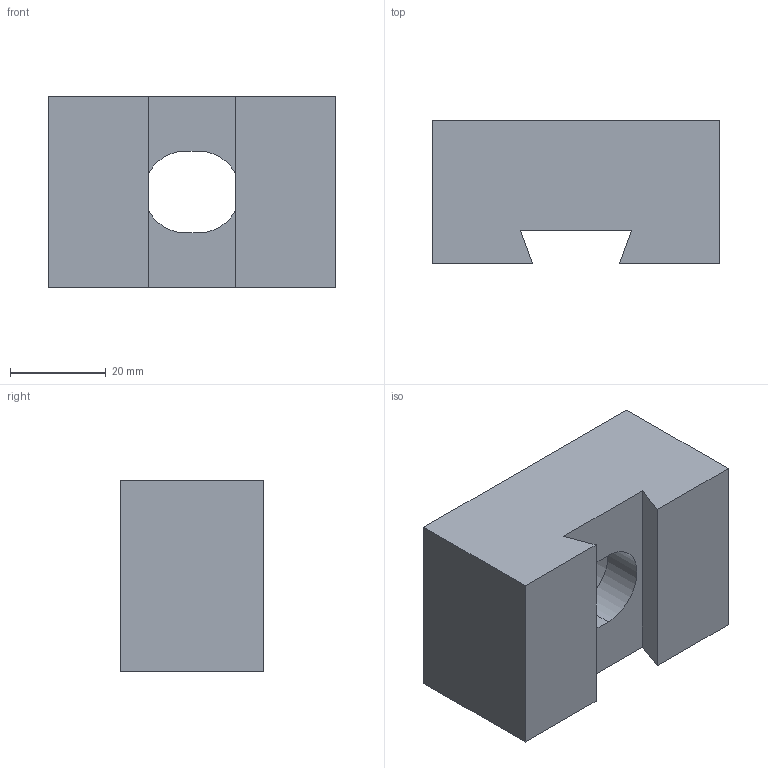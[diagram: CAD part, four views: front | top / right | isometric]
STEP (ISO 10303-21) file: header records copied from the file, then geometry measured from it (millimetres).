
FILE_DESCRIPTION((''),'2;1');
FILE_NAME('FG_WH_WEDCL_00DC3NP001','2026-06-05T13:48:37',('Admin'),(''),'CREO PARAMETRIC BY PTC INC, 2025010','CREO PARAMETRIC BY PTC INC, 2025010','');
FILE_SCHEMA(('CONFIG_CONTROL_DESIGN'));
Length unit declared in the file: metre
Products named in the file (1): FG_WH_WEDCL_00DC3NP001
Bounding box: 60 x 30 x 40 mm (x, y, z)
Volume: 55009 mm3; surface area: 12530.2 mm2
Topology: 1 solids, 1 shells, 19 faces, 48 edges, 32 vertices
Faces by surface type: plane 15, cylinder 4
Entity records: 612 total; most frequent: CARTESIAN_POINT 99, ORIENTED_EDGE 96, DIRECTION 94, EDGE_CURVE 48, VECTOR 40, LINE 40, VERTEX_POINT 32, AXIS2_PLACEMENT_3D 27
